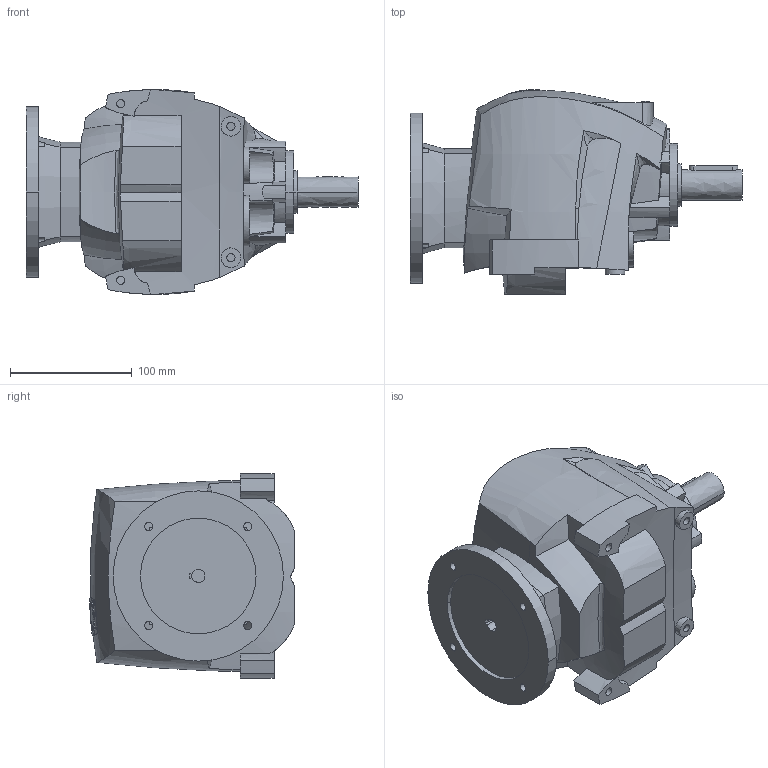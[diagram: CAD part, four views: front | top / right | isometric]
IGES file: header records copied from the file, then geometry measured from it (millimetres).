
Start section:  PTC IGES file: r25_unv_pam63.igs
Global section: file name: r25_unv_pam63.igs; native system: Pro/ENGINEER by Parametric Technology Corporation; preprocessor: 2008230; author: Luca; organization: Unknown; date: 20131214.225736; units: millimetre
Bounding box: 273 x 168.3 x 168.44 mm (x, y, z)
Volume: 3348160.1 mm3; surface area: 172828.4 mm2
Topology: 1 solids, 1 shells, 387 faces, 1066 edges, 711 vertices
Faces by surface type: bspline 247, revolution 140
